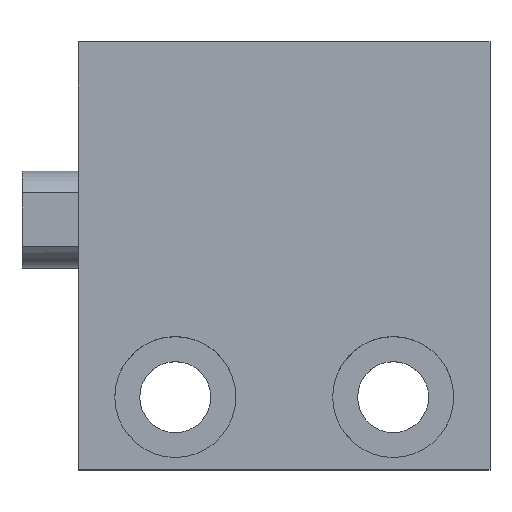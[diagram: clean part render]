
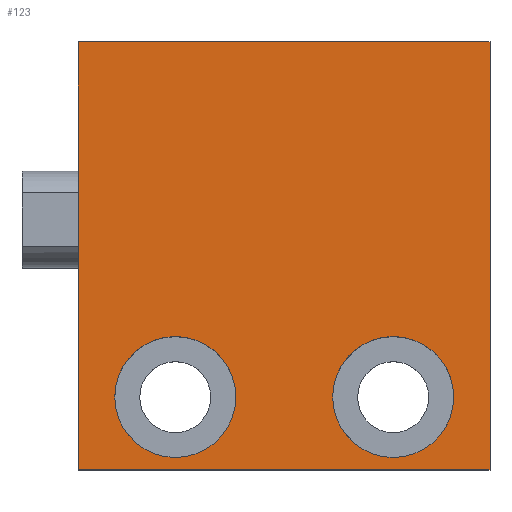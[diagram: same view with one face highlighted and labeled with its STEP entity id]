
A CAD part, top view. The second image highlights one B-rep face of the part: STEP entity #123.
In plain terms, the highlighted planar face has unit normal (0, 0, 1).
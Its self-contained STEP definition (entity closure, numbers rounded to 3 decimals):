
#55 = DIRECTION ( 'NONE',  ( 1., 0., 0. ) ) ;
#79 = CARTESIAN_POINT ( 'NONE',  ( 15.75, -11., 8.5 ) ) ;
#104 = VERTEX_POINT ( 'NONE', #1831 ) ;
#123 = ADVANCED_FACE ( 'NONE', ( #1345, #3070, #2117 ), #902, .T. ) ;
#130 = EDGE_CURVE ( 'NONE', #825, #291, #221, .T. ) ;
#133 = CARTESIAN_POINT ( 'NONE',  ( 0., -15.5, 8.5 ) ) ;
#151 = CIRCLE ( 'NONE', #1408, 3.75 ) ;
#159 = VERTEX_POINT ( 'NONE', #1395 ) ;
#221 = CIRCLE ( 'NONE', #2481, 3.75 ) ;
#236 = EDGE_CURVE ( 'NONE', #1355, #159, #2288, .T. ) ;
#238 = ORIENTED_EDGE ( 'NONE', *, *, #2064, .T. ) ;
#291 = VERTEX_POINT ( 'NONE', #2183 ) ;
#413 = EDGE_CURVE ( 'NONE', #291, #825, #2203, .T. ) ;
#594 = EDGE_LOOP ( 'NONE', ( #1626, #2268, #1371, #238 ) ) ;
#607 = DIRECTION ( 'NONE',  ( 1., 0., 0. ) ) ;
#624 = CARTESIAN_POINT ( 'NONE',  ( 25.5, 11., 8.5 ) ) ;
#635 = EDGE_CURVE ( 'NONE', #1201, #679, #2802, .T. ) ;
#647 = DIRECTION ( 'NONE',  ( 1., 0., 0. ) ) ;
#679 = VERTEX_POINT ( 'NONE', #2817 ) ;
#825 = VERTEX_POINT ( 'NONE', #79 ) ;
#902 = PLANE ( 'NONE',  #1965 ) ;
#923 = CARTESIAN_POINT ( 'NONE',  ( 19.5, -11., 8.5 ) ) ;
#926 = AXIS2_PLACEMENT_3D ( 'NONE', #2825, #1134, #1561 ) ;
#946 = LINE ( 'NONE', #1221, #2487 ) ;
#1088 = DIRECTION ( 'NONE',  ( 0., 1., 0. ) ) ;
#1103 = CARTESIAN_POINT ( 'NONE',  ( 0., -15.5, 8.5 ) ) ;
#1134 = DIRECTION ( 'NONE',  ( 0., 0., 1. ) ) ;
#1170 = ORIENTED_EDGE ( 'NONE', *, *, #413, .F. ) ;
#1201 = VERTEX_POINT ( 'NONE', #1514 ) ;
#1221 = CARTESIAN_POINT ( 'NONE',  ( 25.5, -15.5, 8.5 ) ) ;
#1263 = VECTOR ( 'NONE', #2338, 1000. ) ;
#1345 = FACE_OUTER_BOUND ( 'NONE', #594, .T. ) ;
#1355 = VERTEX_POINT ( 'NONE', #1103 ) ;
#1371 = ORIENTED_EDGE ( 'NONE', *, *, #635, .T. ) ;
#1395 = CARTESIAN_POINT ( 'NONE',  ( 0., 11., 8.5 ) ) ;
#1401 = LINE ( 'NONE', #624, #2463 ) ;
#1408 = AXIS2_PLACEMENT_3D ( 'NONE', #2978, #1804, #607 ) ;
#1514 = CARTESIAN_POINT ( 'NONE',  ( 25.5, -15.5, 8.5 ) ) ;
#1561 = DIRECTION ( 'NONE',  ( 1., 0., 0. ) ) ;
#1562 = DIRECTION ( 'NONE',  ( 0., 0., 1. ) ) ;
#1626 = ORIENTED_EDGE ( 'NONE', *, *, #236, .F. ) ;
#1740 = EDGE_CURVE ( 'NONE', #104, #2616, #1971, .T. ) ;
#1804 = DIRECTION ( 'NONE',  ( 0., 0., 1. ) ) ;
#1805 = AXIS2_PLACEMENT_3D ( 'NONE', #2204, #1997, #55 ) ;
#1831 = CARTESIAN_POINT ( 'NONE',  ( 9.75, -11., 8.5 ) ) ;
#1870 = CARTESIAN_POINT ( 'NONE',  ( 25.5, -15.5, 8.5 ) ) ;
#1871 = ORIENTED_EDGE ( 'NONE', *, *, #130, .F. ) ;
#1903 = DIRECTION ( 'NONE',  ( -1., 0., 0. ) ) ;
#1965 = AXIS2_PLACEMENT_3D ( 'NONE', #2546, #3015, #2852 ) ;
#1971 = CIRCLE ( 'NONE', #926, 3.75 ) ;
#1987 = EDGE_CURVE ( 'NONE', #2616, #104, #151, .T. ) ;
#1997 = DIRECTION ( 'NONE',  ( 0., 0., 1. ) ) ;
#2008 = EDGE_LOOP ( 'NONE', ( #2867, #2871 ) ) ;
#2064 = EDGE_CURVE ( 'NONE', #679, #159, #1401, .T. ) ;
#2117 = FACE_BOUND ( 'NONE', #2008, .T. ) ;
#2183 = CARTESIAN_POINT ( 'NONE',  ( 23.25, -11., 8.5 ) ) ;
#2203 = CIRCLE ( 'NONE', #1805, 3.75 ) ;
#2204 = CARTESIAN_POINT ( 'NONE',  ( 19.5, -11., 8.5 ) ) ;
#2268 = ORIENTED_EDGE ( 'NONE', *, *, #2271, .F. ) ;
#2271 = EDGE_CURVE ( 'NONE', #1201, #1355, #946, .T. ) ;
#2288 = LINE ( 'NONE', #133, #2886 ) ;
#2338 = DIRECTION ( 'NONE',  ( 0., 1., 0. ) ) ;
#2362 = DIRECTION ( 'NONE',  ( -1., 0., 0. ) ) ;
#2386 = EDGE_LOOP ( 'NONE', ( #1170, #1871 ) ) ;
#2463 = VECTOR ( 'NONE', #2362, 1000. ) ;
#2481 = AXIS2_PLACEMENT_3D ( 'NONE', #923, #1562, #647 ) ;
#2487 = VECTOR ( 'NONE', #1903, 1000. ) ;
#2546 = CARTESIAN_POINT ( 'NONE',  ( 25.5, -15.5, 8.5 ) ) ;
#2616 = VERTEX_POINT ( 'NONE', #2952 ) ;
#2802 = LINE ( 'NONE', #1870, #1263 ) ;
#2817 = CARTESIAN_POINT ( 'NONE',  ( 25.5, 11., 8.5 ) ) ;
#2825 = CARTESIAN_POINT ( 'NONE',  ( 6., -11., 8.5 ) ) ;
#2852 = DIRECTION ( 'NONE',  ( 0., 1., 0. ) ) ;
#2867 = ORIENTED_EDGE ( 'NONE', *, *, #1740, .F. ) ;
#2871 = ORIENTED_EDGE ( 'NONE', *, *, #1987, .F. ) ;
#2886 = VECTOR ( 'NONE', #1088, 1000. ) ;
#2952 = CARTESIAN_POINT ( 'NONE',  ( 2.25, -11., 8.5 ) ) ;
#2978 = CARTESIAN_POINT ( 'NONE',  ( 6., -11., 8.5 ) ) ;
#3015 = DIRECTION ( 'NONE',  ( 0., 0., 1. ) ) ;
#3070 = FACE_BOUND ( 'NONE', #2386, .T. ) ;
